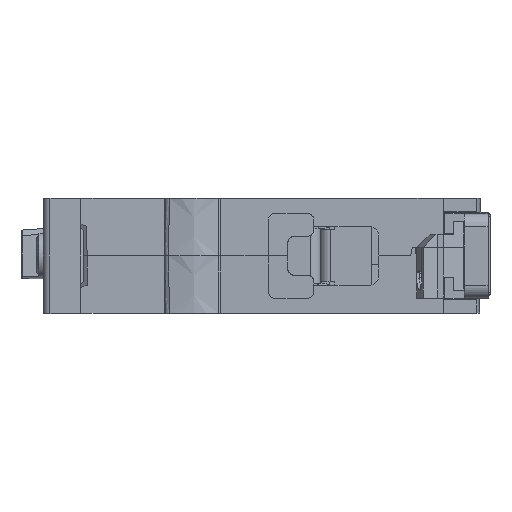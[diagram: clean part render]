
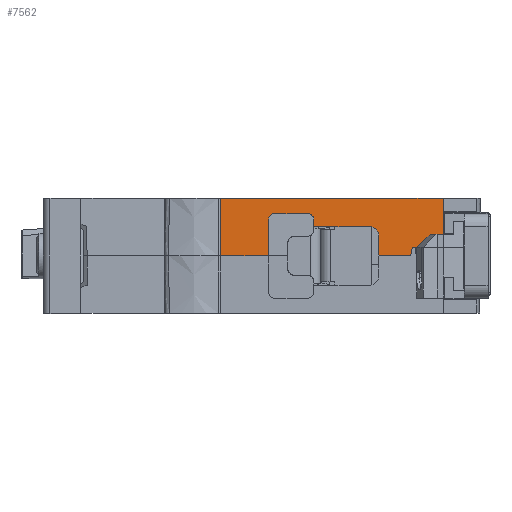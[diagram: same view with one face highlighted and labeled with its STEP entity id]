
A CAD part, front view. The second image highlights one B-rep face of the part: STEP entity #7562.
In plain terms, the highlighted planar face has unit normal (0, -1, 0.009) as drawn and (0.009, 0, 1) by its records, which use the part's own axes.
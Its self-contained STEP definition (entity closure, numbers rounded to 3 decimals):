
#7562=ADVANCED_FACE('',(#36557),#36559,.T.);
#36557=FACE_BOUND('',#36558,.T.);
#36558=EDGE_LOOP('',(#60557,#60558,#60559,#60560,#60561,#60562,#60563,#60564,#60565,
#60566,#60567,#60568,#60569,#60570,#60571,#60572,#60573,#60574,#60575,#60576,#60577,
#60578));
#36559=PLANE('',#36560);
#36560=AXIS2_PLACEMENT_3D('',#36561,#36562,#36563);
#36561=CARTESIAN_POINT('',(0.,0.,40.5));
#36562=DIRECTION('',(0.009,0.,1.));
#36563=DIRECTION('',(1.,0.,-0.009));
#60557=ORIENTED_EDGE('',*,*,#78655,.F.);
#60558=ORIENTED_EDGE('',*,*,#78656,.T.);
#60559=ORIENTED_EDGE('',*,*,#78177,.F.);
#60560=ORIENTED_EDGE('',*,*,#78657,.T.);
#60561=ORIENTED_EDGE('',*,*,#78658,.T.);
#60562=ORIENTED_EDGE('',*,*,#78659,.F.);
#60563=ORIENTED_EDGE('',*,*,#78660,.F.);
#60564=ORIENTED_EDGE('',*,*,#78661,.F.);
#60565=ORIENTED_EDGE('',*,*,#78662,.T.);
#60566=ORIENTED_EDGE('',*,*,#78663,.F.);
#60567=ORIENTED_EDGE('',*,*,#78664,.F.);
#60568=ORIENTED_EDGE('',*,*,#78653,.F.);
#60569=ORIENTED_EDGE('',*,*,#78665,.T.);
#60570=ORIENTED_EDGE('',*,*,#78666,.F.);
#60571=ORIENTED_EDGE('',*,*,#78667,.T.);
#60572=ORIENTED_EDGE('',*,*,#78382,.T.);
#60573=ORIENTED_EDGE('',*,*,#78303,.T.);
#60574=ORIENTED_EDGE('',*,*,#78668,.F.);
#60575=ORIENTED_EDGE('',*,*,#78669,.F.);
#60576=ORIENTED_EDGE('',*,*,#78670,.T.);
#60577=ORIENTED_EDGE('',*,*,#78485,.T.);
#60578=ORIENTED_EDGE('',*,*,#78367,.T.);
#78177=EDGE_CURVE('',#89011,#89013,#89014,.T.);
#78303=EDGE_CURVE('',#89239,#89240,#89241,.T.);
#78367=EDGE_CURVE('',#89349,#89350,#89351,.T.);
#78382=EDGE_CURVE('',#89373,#89239,#89374,.T.);
#78485=EDGE_CURVE('',#89557,#89349,#89558,.T.);
#78653=EDGE_CURVE('',#89854,#89856,#89857,.T.);
#78655=EDGE_CURVE('',#89859,#89350,#89860,.T.);
#78656=EDGE_CURVE('',#89859,#89013,#89861,.T.);
#78657=EDGE_CURVE('',#89011,#89862,#89863,.T.);
#78658=EDGE_CURVE('',#89862,#89864,#89865,.T.);
#78659=EDGE_CURVE('',#89866,#89864,#89867,.T.);
#78660=EDGE_CURVE('',#89868,#89866,#89869,.T.);
#78661=EDGE_CURVE('',#89870,#89868,#89871,.T.);
#78662=EDGE_CURVE('',#89870,#89872,#89873,.T.);
#78663=EDGE_CURVE('',#89874,#89872,#89875,.T.);
#78664=EDGE_CURVE('',#89856,#89874,#89876,.T.);
#78665=EDGE_CURVE('',#89854,#89877,#89878,.T.);
#78666=EDGE_CURVE('',#89879,#89877,#89880,.T.);
#78667=EDGE_CURVE('',#89879,#89373,#89881,.T.);
#78668=EDGE_CURVE('',#89111,#89240,#89882,.T.);
#78669=EDGE_CURVE('',#89883,#89111,#89884,.T.);
#78670=EDGE_CURVE('',#89883,#89557,#89885,.T.);
#89011=VERTEX_POINT('',#110297);
#89013=VERTEX_POINT('',#110301);
#89014=LINE('',#110302,#110303);
#89111=VERTEX_POINT('',#110747);
#89239=VERTEX_POINT('',#111479);
#89240=VERTEX_POINT('',#111480);
#89241=LINE('',#111481,#111482);
#89349=VERTEX_POINT('',#111910);
#89350=VERTEX_POINT('',#111911);
#89351=LINE('',#111912,#111913);
#89373=VERTEX_POINT('',#111966);
#89374=LINE('',#111967,#111968);
#89557=VERTEX_POINT('',#112375);
#89558=LINE('',#112376,#112377);
#89854=VERTEX_POINT('',#113160);
#89856=VERTEX_POINT('',#113164);
#89857=LINE('',#113165,#113166);
#89859=VERTEX_POINT('',#113171);
#89860=LINE('',#113172,#113173);
#89861=B_SPLINE_CURVE_WITH_KNOTS('',3,
(#113175,#113176,#113177,#113178),
.UNSPECIFIED.,.F.,.F.,
(4,4),
(0.,1.),
.UNSPECIFIED.);
#89862=VERTEX_POINT('',#113179);
#89863=LINE('',#113180,#113181);
#89864=VERTEX_POINT('',#113183);
#89865=(BOUNDED_CURVE()B_SPLINE_CURVE(3,
(#113184,#113185,#113186,#113187),
.UNSPECIFIED.,.F.,.F.)B_SPLINE_CURVE_WITH_KNOTS((4,4),
(0.,1.),
.UNSPECIFIED.)CURVE()GEOMETRIC_REPRESENTATION_ITEM()RATIONAL_B_SPLINE_CURVE((1.,
0.805,0.805,1.))REPRESENTATION_ITEM(''));
#89866=VERTEX_POINT('',#113188);
#89867=LINE('',#113189,#113190);
#89868=VERTEX_POINT('',#113192);
#89869=(BOUNDED_CURVE()B_SPLINE_CURVE(3,
(#113193,#113194,#113195,#113196),
.UNSPECIFIED.,.F.,.F.)B_SPLINE_CURVE_WITH_KNOTS((4,4),
(0.,1.),
.UNSPECIFIED.)CURVE()GEOMETRIC_REPRESENTATION_ITEM()RATIONAL_B_SPLINE_CURVE((1.,
0.805,0.805,1.))REPRESENTATION_ITEM(''));
#89870=VERTEX_POINT('',#113197);
#89871=LINE('',#113198,#113199);
#89872=VERTEX_POINT('',#113201);
#89873=LINE('',#113202,#113203);
#89874=VERTEX_POINT('',#113205);
#89875=(BOUNDED_CURVE()B_SPLINE_CURVE(3,
(#113206,#113207,#113208,#113209),
.UNSPECIFIED.,.F.,.F.)B_SPLINE_CURVE_WITH_KNOTS((4,4),
(0.,1.),
.UNSPECIFIED.)CURVE()GEOMETRIC_REPRESENTATION_ITEM()RATIONAL_B_SPLINE_CURVE((1.,
0.773,0.773,1.))REPRESENTATION_ITEM(''));
#89876=LINE('',#113210,#113211);
#89877=VERTEX_POINT('',#113213);
#89878=LINE('',#113214,#113215);
#89879=VERTEX_POINT('',#113217);
#89880=LINE('',#113218,#113219);
#89881=LINE('',#113221,#113222);
#89882=LINE('',#113224,#113225);
#89883=VERTEX_POINT('',#113227);
#89884=LINE('',#113228,#113229);
#89885=LINE('',#113231,#113232);
#110297=CARTESIAN_POINT('',(0.,30.,40.5));
#110301=CARTESIAN_POINT('',(0.,37.316,40.5));
#110302=CARTESIAN_POINT('',(0.,30.,40.5));
#110303=VECTOR('',#110304,1.);
#110304=DIRECTION('',(0.,1.,0.));
#110747=CARTESIAN_POINT('',(0.,7.2,40.5));
#111479=CARTESIAN_POINT('',(1.3,7.274,40.489));
#111480=CARTESIAN_POINT('',(0.,7.288,40.5));
#111481=CARTESIAN_POINT('',(1.3,7.274,40.489));
#111482=VECTOR('',#111483,1.);
#111483=DIRECTION('',(-1.,0.011,0.009));
#111910=CARTESIAN_POINT('',(3.3,3.05,40.471));
#111911=CARTESIAN_POINT('',(8.85,3.147,40.423));
#111912=CARTESIAN_POINT('',(3.3,3.05,40.471));
#111913=VECTOR('',#111914,1.);
#111914=DIRECTION('',(1.,0.017,-0.009));
#111966=CARTESIAN_POINT('',(1.3,7.85,40.489));
#111967=CARTESIAN_POINT('',(1.3,7.85,40.489));
#111968=VECTOR('',#111969,1.);
#111969=DIRECTION('',(0.,-1.,0.));
#112375=CARTESIAN_POINT('',(3.3,5.142,40.471));
#112376=CARTESIAN_POINT('',(3.3,5.142,40.471));
#112377=VECTOR('',#112378,1.);
#112378=DIRECTION('',(0.,-1.,0.));
#113160=CARTESIAN_POINT('',(0.,8.2,40.5));
#113164=CARTESIAN_POINT('',(0.,12.989,40.5));
#113165=CARTESIAN_POINT('',(0.,8.2,40.5));
#113166=VECTOR('',#113167,1.);
#113167=DIRECTION('',(0.,1.,0.));
#113171=CARTESIAN_POINT('',(8.85,37.33,40.423));
#113172=CARTESIAN_POINT('',(8.85,37.33,40.423));
#113173=VECTOR('',#113174,1.);
#113174=DIRECTION('',(0.,-1.,0.));
#113175=CARTESIAN_POINT('',(8.85,37.33,40.423));
#113176=CARTESIAN_POINT('',(5.9,37.325,40.449));
#113177=CARTESIAN_POINT('',(2.95,37.32,40.474));
#113178=CARTESIAN_POINT('',(0.,37.316,40.5));
#113179=CARTESIAN_POINT('',(5.5,30.,40.452));
#113180=CARTESIAN_POINT('',(0.,30.,40.5));
#113181=VECTOR('',#113182,1.);
#113182=DIRECTION('',(1.,0.,-0.009));
#113183=CARTESIAN_POINT('',(6.5,29.,40.443));
#113184=CARTESIAN_POINT('',(5.5,30.,40.452));
#113185=CARTESIAN_POINT('',(6.086,30.,40.447));
#113186=CARTESIAN_POINT('',(6.5,29.586,40.443));
#113187=CARTESIAN_POINT('',(6.5,29.,40.443));
#113188=CARTESIAN_POINT('',(6.5,24.,40.443));
#113189=CARTESIAN_POINT('',(6.5,24.,40.443));
#113190=VECTOR('',#113191,1.);
#113191=DIRECTION('',(0.,1.,0.));
#113192=CARTESIAN_POINT('',(5.5,23.,40.452));
#113193=CARTESIAN_POINT('',(5.5,23.,40.452));
#113194=CARTESIAN_POINT('',(6.086,23.,40.447));
#113195=CARTESIAN_POINT('',(6.5,23.414,40.443));
#113196=CARTESIAN_POINT('',(6.5,24.,40.443));
#113197=CARTESIAN_POINT('',(4.5,23.,40.461));
#113198=CARTESIAN_POINT('',(4.5,23.,40.461));
#113199=VECTOR('',#113200,1.);
#113200=DIRECTION('',(1.,0.,-0.009));
#113201=CARTESIAN_POINT('',(4.5,14.5,40.461));
#113202=CARTESIAN_POINT('',(4.5,23.,40.461));
#113203=VECTOR('',#113204,1.);
#113204=DIRECTION('',(0.,-1.,0.));
#113205=CARTESIAN_POINT('',(2.802,13.013,40.476));
#113206=CARTESIAN_POINT('',(2.802,13.013,40.476));
#113207=CARTESIAN_POINT('',(3.767,12.885,40.467));
#113208=CARTESIAN_POINT('',(4.5,13.526,40.461));
#113209=CARTESIAN_POINT('',(4.5,14.5,40.461));
#113210=CARTESIAN_POINT('',(0.,12.989,40.5));
#113211=VECTOR('',#113212,1.);
#113212=DIRECTION('',(1.,0.009,-0.009));
#113213=CARTESIAN_POINT('',(0.332,8.008,40.497));
#113214=CARTESIAN_POINT('',(0.,8.2,40.5));
#113215=VECTOR('',#113216,1.);
#113216=DIRECTION('',(0.866,-0.5,-0.008));
#113217=CARTESIAN_POINT('',(1.036,8.002,40.491));
#113218=CARTESIAN_POINT('',(1.036,8.002,40.491));
#113219=VECTOR('',#113220,1.);
#113220=DIRECTION('',(-1.,0.009,0.009));
#113221=CARTESIAN_POINT('',(1.036,8.002,40.491));
#113222=VECTOR('',#113223,1.);
#113223=DIRECTION('',(0.866,-0.5,-0.008));
#113224=CARTESIAN_POINT('',(0.,7.2,40.5));
#113225=VECTOR('',#113226,1.);
#113226=DIRECTION('',(0.,1.,0.));
#113227=CARTESIAN_POINT('',(1.311,7.191,40.489));
#113228=CARTESIAN_POINT('',(1.311,7.191,40.489));
#113229=VECTOR('',#113230,1.);
#113230=DIRECTION('',(-1.,0.007,0.009));
#113231=CARTESIAN_POINT('',(1.311,7.191,40.489));
#113232=VECTOR('',#113233,1.);
#113233=DIRECTION('',(0.696,-0.718,-0.006));
